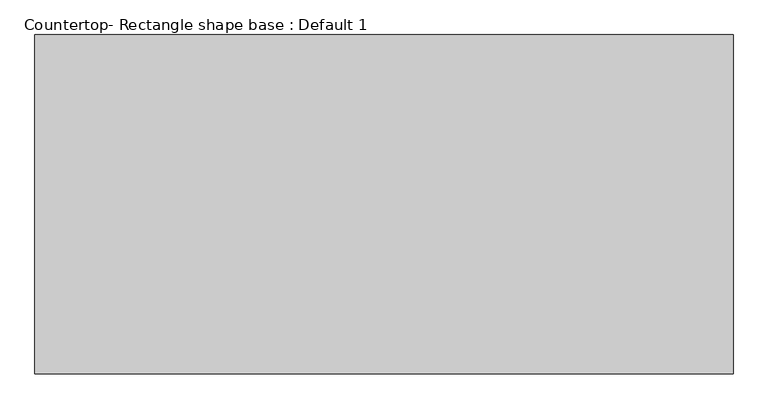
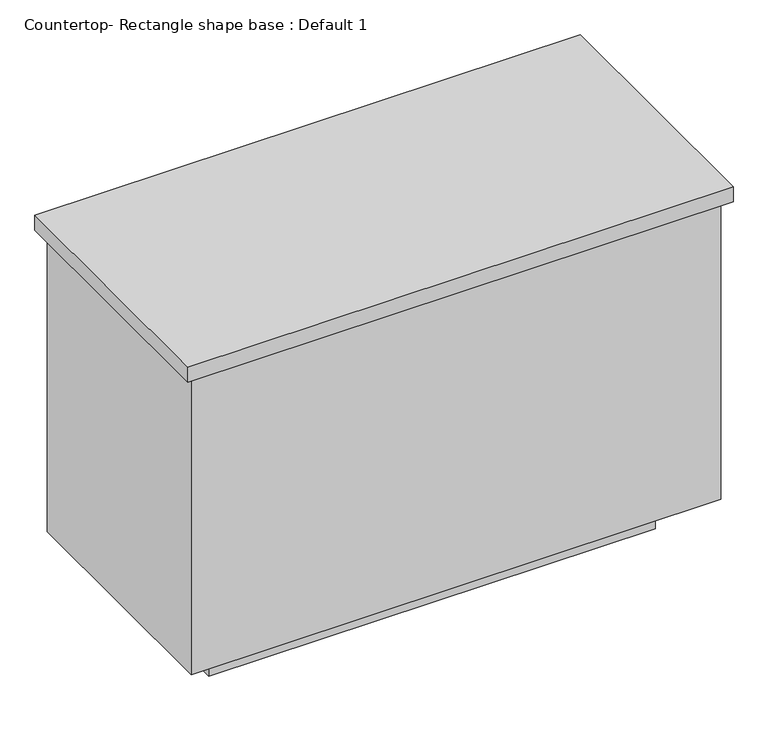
"""IFC4 building model written with IfcOpenShell, lengths in millimetres: proxy geometry, Countertop- Rectangle shape base : Default 1."""

from ifc_helpers import new_model, si_unit, frame, origin, origin_with_axes, place, context, project, spatial, polyline, outline, extrude, source, transform, mapped, element, save


def countertop_rectangle_shape_base_default_1_848e0110(model_context):
    return source(origin(), model_context, "Body", "SweptSolid", [
        extrude(outline(polyline([(95.25, 57.15), (95.25, 704.85), (1428.75, 704.85), (1428.75, 57.15), (95.25, 57.15)])), frame((0.0, 0.0, 876.3), z_axis=(0.0, 0.0, 1.0), x_axis=(1.0, 0.0, 0.0)), (0.0, 0.0, 1.0), 38.1),
        extrude(outline(polyline([(1409.7, 685.8), (1409.7, 76.2), (114.3, 76.2), (114.3, 685.8), (1409.7, 685.8)])), frame((0.0, 0.0, 101.6), z_axis=(0.0, 0.0, 1.0), x_axis=(1.0, 0.0, 0.0)), (0.0, 0.0, 1.0), 774.7),
        extrude(outline(polyline([(1308.1, 584.2), (1308.1, 177.8), (215.9, 177.8), (215.9, 584.2), (1308.1, 584.2)])), origin_with_axes(), (0.0, 0.0, 1.0), 101.6),
    ])


if __name__ == "__main__":
    model = new_model("IFC4")
    model_context = context("Model", 3, world=origin())
    ifc_project = project(units=[si_unit("LENGTHUNIT", "METRE", prefix="MILLI")], contexts=[model_context])
    site = spatial("IfcSite", under=ifc_project)
    building = spatial("IfcBuilding", under=site)
    placement = place(None, origin())
    countertop_rectangle_shape_base_default_1_shape = countertop_rectangle_shape_base_default_1_848e0110(model_context)
    element("IfcBuildingElementProxy", 1, Name="Countertop- Rectangle shape base : Default 1", ObjectType="Countertop- Rectangle shape base : Default 1", at=placement, inside=building, context=model_context, shape_type="MappedRepresentation", body=[
        mapped(countertop_rectangle_shape_base_default_1_shape, transform((0.0, 0.0, 0.0), x_axis=(1.0, 0.0, 0.0), y_axis=(0.0, 1.0, 0.0), z_axis=(0.0, 0.0, 1.0))),
    ])
    save(model, "model.ifc")
